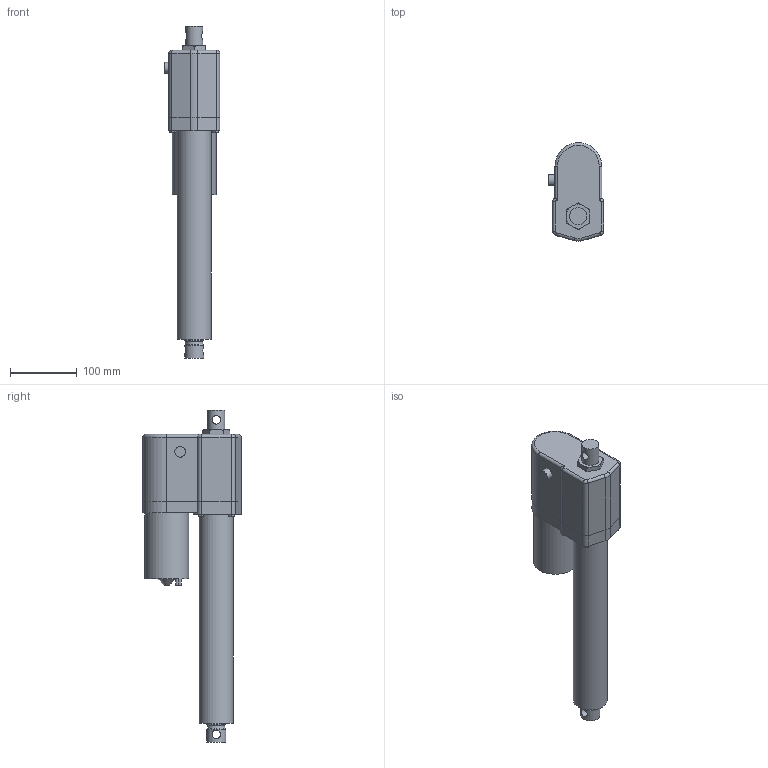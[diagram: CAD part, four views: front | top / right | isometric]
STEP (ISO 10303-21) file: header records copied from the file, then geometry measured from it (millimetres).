
FILE_DESCRIPTION (( 'STEP AP214' ), '1' );
FILE_NAME ('D12-05A5-10M0NPO-tollo.step', '2020-04-13T14:54:46', ( '' ), ( '' ), 'SwSTEP 2.0', 'SolidWorks 2010', '' );
FILE_SCHEMA (( 'AUTOMOTIVE_DESIGN' ));
Length unit declared in the file: millimetre
Products named in the file (6): Electrak-LA10-Motor-D12-05A5-10M0NPO-tollo_Electrak-LA10-Motor-D12-05A5-10M0NPO-tollo; Electrak-LA10-Rear-D12-05A5-10M0NPO-tollo_Electrak-LA10-Rear-D12-05A5-10M0NPO-tollo; Electrak-LA10-Tube-D12-05A5-10M0NPO-tollo_Electrak-LA10-Tube-D12-05A5-10M0NPO-tollo; Electrak-LA10-Rod-D12-05A5-10M0NPO-tollo_Electrak-LA10-Rod-D12-05A5-10M0NPO-tollo; Screw-M6S-M5-D12-05A5-10M0NPO-tollo_Screw-M6S-M5-D12-05A5-10M0NPO-tollo; D12-05A5-10M0NPO-tollo
Assembly tree (8 placements, depth 2):
  D12-05A5-10M0NPO-tollo
    Screw-M6S-M5-D12-05A5-10M0NPO-tollo_Screw-M6S-M5-D12-05A5-10M0NPO-tollo  x4
    Electrak-LA10-Motor-D12-05A5-10M0NPO-tollo_Electrak-LA10-Motor-D12-05A5-10M0NPO-tollo
    Electrak-LA10-Rod-D12-05A5-10M0NPO-tollo_Electrak-LA10-Rod-D12-05A5-10M0NPO-tollo
    Electrak-LA10-Tube-D12-05A5-10M0NPO-tollo_Electrak-LA10-Tube-D12-05A5-10M0NPO-tollo
    Electrak-LA10-Rear-D12-05A5-10M0NPO-tollo_Electrak-LA10-Rear-D12-05A5-10M0NPO-tollo
Bounding box: 82.72 x 147.19 x 495.8 mm (x, y, z)
Volume: 2138990.5 mm3; surface area: 230635.8 mm2
Topology: 8 solids, 8 shells, 193 faces, 439 edges, 283 vertices
Faces by surface type: plane 82, cylinder 77, cone 22, torus 12
Full cylindrical faces by diameter (mm): 4 x2, 4.126 x4, 4.8 x10, 5 x4, 7.878 x4, 12.8 x2, 16 x1, 25.4 x1, 28.6 x4, 51 x1, 65.3 x1
Entity records: 4139 total; most frequent: CARTESIAN_POINT 1139, DIRECTION 600, ORIENTED_EDGE 476, AXIS2_PLACEMENT_3D 251, EDGE_CURVE 238, EDGE_LOOP 188, VERTEX_POINT 174, FACE_OUTER_BOUND 149
